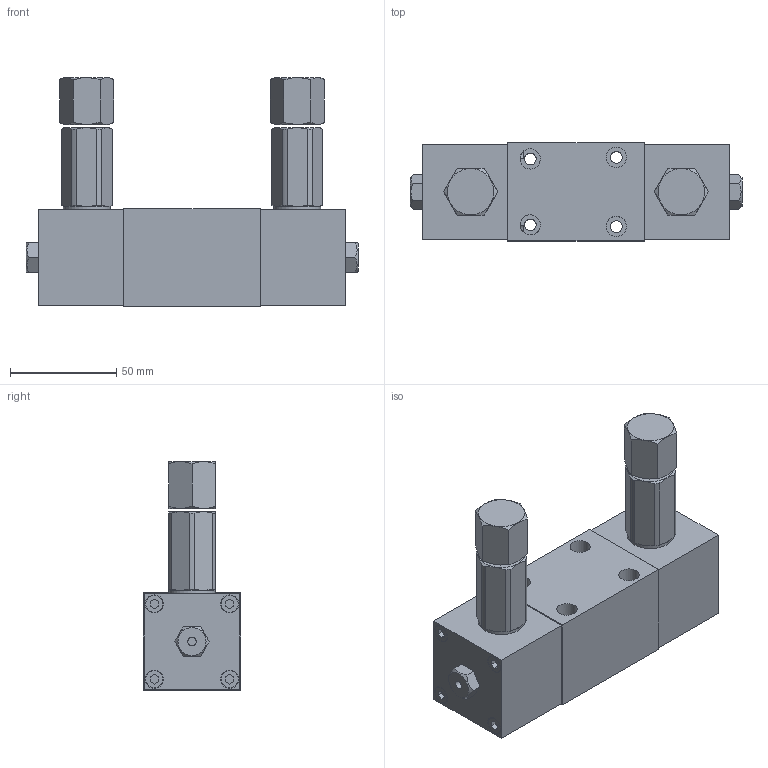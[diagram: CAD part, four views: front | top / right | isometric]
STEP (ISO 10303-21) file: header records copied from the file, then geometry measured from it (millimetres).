
FILE_DESCRIPTION(('Bauteilbeschreibung','HiCAD-Model','HiCAD-STEP-TRANSLATION','Bauteilbeschreibung'),'2;1');
FILE_NAME('D:/AQ4Z60.STP','2006-08-10T12:54:36+00:00',('Konstrukteur'),('Konstrukteur Firma GmbH'),'HiCAD3 V1210 STEP 1.6.2005','HiCAD3 V1210','confidential');
FILE_SCHEMA(('AUTOMOTIVE_DESIGN { 1 2 10303 214 0 1 1 1 }'));
Length unit declared in the file: millimetre
Products named in the file (18): AQ4Z60; AQ4Z600; A1C61D08; AE4B9C84; AE4B9C840; IN6KTM5; IN6KTM50; IN6KTM51; IN6KTM52; IN6KTM53; AE4B9C841; AE4B9C842; IN6KTM54; IN6KTM55; IN6KTM56; IN6KTM57; IN6KTM58; AB294FE8
Assembly tree (17 placements, depth 6):
  AQ4Z60
    AQ4Z600
      A1C61D08
        AE4B9C84
        AE4B9C840
          IN6KTM5
            IN6KTM50
            IN6KTM51
            IN6KTM52
            IN6KTM53
        AE4B9C841
        AE4B9C842
          IN6KTM54
            IN6KTM55
            IN6KTM56
            IN6KTM57
            IN6KTM58
        AB294FE8
Bounding box: 156 x 46 x 107.6 mm (x, y, z)
Volume: 337603 mm3; surface area: 61180 mm2
Topology: 13 solids, 13 shells, 234 faces, 542 edges, 370 vertices
Faces by surface type: plane 162, cylinder 62, cone 10
Full cylindrical faces by diameter (mm): 4 x2, 4.5 x8, 5 x8, 5.5 x4, 8 x8, 8.5 x8, 9.5 x4, 12.5 x4, 22 x2
Entity records: 15085 total; most frequent: CARTESIAN_POINT 5618, DIRECTION 1052, ORIENTED_EDGE 888, COLOUR_RGB 689, PRESENTATION_STYLE_ASSIGNMENT 689, OVER_RIDING_STYLED_ITEM 678, CURVE_STYLE 444, DRAUGHTING_PRE_DEFINED_CURVE_FONT 444
